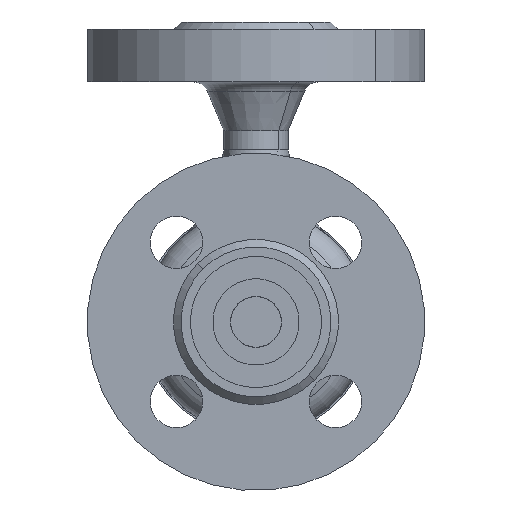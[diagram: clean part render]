
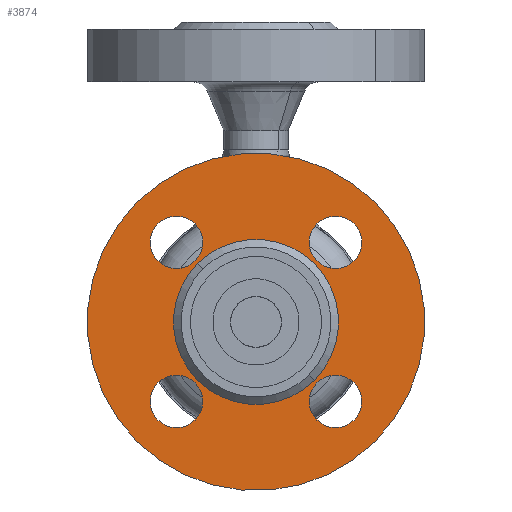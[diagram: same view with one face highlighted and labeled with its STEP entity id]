
A CAD part, front view. The second image highlights one B-rep face of the part: STEP entity #3874.
In plain terms, the highlighted planar face has unit normal (0, -1, 0).
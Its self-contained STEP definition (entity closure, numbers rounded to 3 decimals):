
#469 = VERTEX_POINT ( 'NONE', #3326 ) ;
#16939 = ORIENTED_EDGE ( 'NONE', *, *, #4074, .T. ) ;
#600 = EDGE_CURVE ( 'NONE', #469, #6923, #3419, .T. ) ;
#17247 = EDGE_CURVE ( 'NONE', #1572, #2832, #8337, .T. ) ;
#17549 = ORIENTED_EDGE ( 'NONE', *, *, #7517, .T. ) ;
#1572 = VERTEX_POINT ( 'NONE', #4493 ) ;
#1736 = ORIENTED_EDGE ( 'NONE', *, *, #14316, .T. ) ;
#2245 = EDGE_CURVE ( 'NONE', #6923, #469, #5028, .T. ) ;
#2832 = VERTEX_POINT ( 'NONE', #7404 ) ;
#2869 = VERTEX_POINT ( 'NONE', #7452 ) ;
#3087 = VERTEX_POINT ( 'NONE', #7704 ) ;
#3101 = CARTESIAN_POINT ( 'NONE',  ( 7., 2., 30. ) ) ;
#3301 = EDGE_CURVE ( 'NONE', #3087, #2869, #7951, .T. ) ;
#3326 = CARTESIAN_POINT ( 'NONE',  ( -23., 2., 0. ) ) ;
#3419 = CIRCLE ( 'NONE', #3420, 7. ) ;
#3420 = AXIS2_PLACEMENT_3D ( 'NONE', #3421, #3422, #3423 ) ;
#3421 = CARTESIAN_POINT ( 'NONE',  ( -30., 2., 0. ) ) ;
#3422 = DIRECTION ( 'NONE',  ( 0., 1., 0. ) ) ;
#3423 = DIRECTION ( 'NONE',  ( -1., 0., 0. ) ) ;
#3874 = ADVANCED_FACE ( 'NONE', ( #9098, #9099, #9100, #9101, #9102, #9103 ), #9104, .F. ) ;
#4074 = EDGE_CURVE ( 'NONE', #2832, #1572, #9378, .T. ) ;
#4307 = VERTEX_POINT ( 'NONE', #9642 ) ;
#4401 = ORIENTED_EDGE ( 'NONE', *, *, #4529, .T. ) ;
#4493 = CARTESIAN_POINT ( 'NONE',  ( -7., 2., -30. ) ) ;
#4529 = EDGE_CURVE ( 'NONE', #4307, #12866, #10000, .T. ) ;
#5028 = CIRCLE ( 'NONE', #5029, 7. ) ;
#5029 = AXIS2_PLACEMENT_3D ( 'NONE', #5030, #5031, #5032 ) ;
#5030 = CARTESIAN_POINT ( 'NONE',  ( -30., 2., 0. ) ) ;
#5031 = DIRECTION ( 'NONE',  ( 0., 1., 0. ) ) ;
#5032 = DIRECTION ( 'NONE',  ( -1., 0., 0. ) ) ;
#5400 = ORIENTED_EDGE ( 'NONE', *, *, #13811, .T. ) ;
#6923 = VERTEX_POINT ( 'NONE', #13526 ) ;
#7388 = EDGE_CURVE ( 'NONE', #2869, #3087, #15179, .T. ) ;
#7404 = CARTESIAN_POINT ( 'NONE',  ( 7., 2., -30. ) ) ;
#7452 = CARTESIAN_POINT ( 'NONE',  ( 45., 2., 0. ) ) ;
#7517 = EDGE_CURVE ( 'NONE', #9239, #9457, #15244, .T. ) ;
#7704 = CARTESIAN_POINT ( 'NONE',  ( -45., 2., 0. ) ) ;
#7951 = CIRCLE ( 'NONE', #7952, 45. ) ;
#7952 = AXIS2_PLACEMENT_3D ( 'NONE', #7954, #7955, #7956 ) ;
#7954 = CARTESIAN_POINT ( 'NONE',  ( 0., 2., 0. ) ) ;
#7955 = DIRECTION ( 'NONE',  ( 0., 1., 0. ) ) ;
#7956 = DIRECTION ( 'NONE',  ( -1., 0., 0. ) ) ;
#8202 = EDGE_LOOP ( 'NONE', ( #13662, #4401 ) ) ;
#8337 = CIRCLE ( 'NONE', #8338, 7. ) ;
#8338 = AXIS2_PLACEMENT_3D ( 'NONE', #8339, #8340, #8341 ) ;
#8339 = CARTESIAN_POINT ( 'NONE',  ( 0., 2., -30. ) ) ;
#8340 = DIRECTION ( 'NONE',  ( 0., 1., 0. ) ) ;
#8341 = DIRECTION ( 'NONE',  ( -1., 0., 0. ) ) ;
#8440 = ORIENTED_EDGE ( 'NONE', *, *, #14059, .T. ) ;
#8685 = CARTESIAN_POINT ( 'NONE',  ( 23., 2., 0. ) ) ;
#8731 = ORIENTED_EDGE ( 'NONE', *, *, #2245, .T. ) ;
#9098 = FACE_BOUND ( 'NONE', #12304, .T. ) ;
#9099 = FACE_BOUND ( 'NONE', #16021, .T. ) ;
#9100 = FACE_BOUND ( 'NONE', #14927, .T. ) ;
#9101 = FACE_BOUND ( 'NONE', #8202, .T. ) ;
#9102 = FACE_OUTER_BOUND ( 'NONE', #11468, .T. ) ;
#9103 = FACE_BOUND ( 'NONE', #12789, .T. ) ;
#9104 = PLANE ( 'NONE',  #9105 ) ;
#9105 = AXIS2_PLACEMENT_3D ( 'NONE', #9106, #9107, #9108 ) ;
#9106 = CARTESIAN_POINT ( 'NONE',  ( 22., 2., 0. ) ) ;
#9107 = DIRECTION ( 'NONE',  ( 0., 1., 0. ) ) ;
#9108 = DIRECTION ( 'NONE',  ( -1., 0., 0. ) ) ;
#9239 = VERTEX_POINT ( 'NONE', #10435 ) ;
#9378 = CIRCLE ( 'NONE', #9379, 7. ) ;
#9379 = AXIS2_PLACEMENT_3D ( 'NONE', #9380, #9381, #9382 ) ;
#9380 = CARTESIAN_POINT ( 'NONE',  ( 0., 2., -30. ) ) ;
#9381 = DIRECTION ( 'NONE',  ( 0., 1., 0. ) ) ;
#9382 = DIRECTION ( 'NONE',  ( -1., 0., 0. ) ) ;
#9457 = VERTEX_POINT ( 'NONE', #3101 ) ;
#9606 = CIRCLE ( 'NONE', #9607, 7. ) ;
#9607 = AXIS2_PLACEMENT_3D ( 'NONE', #9608, #9609, #9610 ) ;
#9608 = CARTESIAN_POINT ( 'NONE',  ( 30., 2., 0. ) ) ;
#9609 = DIRECTION ( 'NONE',  ( 0., 1., 0. ) ) ;
#9610 = DIRECTION ( 'NONE',  ( -1., 0., 0. ) ) ;
#9642 = CARTESIAN_POINT ( 'NONE',  ( 37., 2., 0. ) ) ;
#9643 = CARTESIAN_POINT ( 'NONE',  ( -22., 2., 0. ) ) ;
#10000 = CIRCLE ( 'NONE', #10001, 7. ) ;
#10001 = AXIS2_PLACEMENT_3D ( 'NONE', #10002, #10003, #10004 ) ;
#10002 = CARTESIAN_POINT ( 'NONE',  ( 30., 2., 0. ) ) ;
#10003 = DIRECTION ( 'NONE',  ( 0., 1., 0. ) ) ;
#10004 = DIRECTION ( 'NONE',  ( -1., 0., 0. ) ) ;
#10005 = CIRCLE ( 'NONE', #10006, 22. ) ;
#10006 = AXIS2_PLACEMENT_3D ( 'NONE', #10007, #10008, #10010 ) ;
#10007 = CARTESIAN_POINT ( 'NONE',  ( 0., 2., 0. ) ) ;
#10008 = DIRECTION ( 'NONE',  ( 0., 1., 0. ) ) ;
#10010 = DIRECTION ( 'NONE',  ( -1., 0., 0. ) ) ;
#10435 = CARTESIAN_POINT ( 'NONE',  ( -7., 2., 30. ) ) ;
#10552 = CIRCLE ( 'NONE', #10553, 7. ) ;
#10553 = AXIS2_PLACEMENT_3D ( 'NONE', #10554, #10555, #10556 ) ;
#10554 = CARTESIAN_POINT ( 'NONE',  ( 0., 2., 30. ) ) ;
#10555 = DIRECTION ( 'NONE',  ( 0., 1., 0. ) ) ;
#10556 = DIRECTION ( 'NONE',  ( -1., 0., 0. ) ) ;
#10758 = CIRCLE ( 'NONE', #10759, 22. ) ;
#10759 = AXIS2_PLACEMENT_3D ( 'NONE', #10760, #10761, #10762 ) ;
#10760 = CARTESIAN_POINT ( 'NONE',  ( 0., 2., 0. ) ) ;
#10761 = DIRECTION ( 'NONE',  ( 0., 1., 0. ) ) ;
#10762 = DIRECTION ( 'NONE',  ( -1., 0., 0. ) ) ;
#10961 = ORIENTED_EDGE ( 'NONE', *, *, #3301, .F. ) ;
#11468 = EDGE_LOOP ( 'NONE', ( #10961, #13025 ) ) ;
#11961 = ORIENTED_EDGE ( 'NONE', *, *, #17247, .T. ) ;
#12103 = CARTESIAN_POINT ( 'NONE',  ( 22., 2., 0. ) ) ;
#12304 = EDGE_LOOP ( 'NONE', ( #11961, #16939 ) ) ;
#12789 = EDGE_LOOP ( 'NONE', ( #5400, #1736 ) ) ;
#12866 = VERTEX_POINT ( 'NONE', #8685 ) ;
#13025 = ORIENTED_EDGE ( 'NONE', *, *, #7388, .F. ) ;
#13526 = CARTESIAN_POINT ( 'NONE',  ( -37., 2., 0. ) ) ;
#13534 = EDGE_CURVE ( 'NONE', #12866, #4307, #9606, .T. ) ;
#13590 = VERTEX_POINT ( 'NONE', #9643 ) ;
#13662 = ORIENTED_EDGE ( 'NONE', *, *, #13534, .T. ) ;
#13811 = EDGE_CURVE ( 'NONE', #13590, #14837, #10005, .T. ) ;
#14059 = EDGE_CURVE ( 'NONE', #9457, #9239, #10552, .T. ) ;
#14316 = EDGE_CURVE ( 'NONE', #14837, #13590, #10758, .T. ) ;
#14837 = VERTEX_POINT ( 'NONE', #12103 ) ;
#14927 = EDGE_LOOP ( 'NONE', ( #17549, #8440 ) ) ;
#15060 = ORIENTED_EDGE ( 'NONE', *, *, #600, .T. ) ;
#15179 = CIRCLE ( 'NONE', #15180, 45. ) ;
#15180 = AXIS2_PLACEMENT_3D ( 'NONE', #15181, #15182, #15183 ) ;
#15181 = CARTESIAN_POINT ( 'NONE',  ( 0., 2., 0. ) ) ;
#15182 = DIRECTION ( 'NONE',  ( 0., 1., 0. ) ) ;
#15183 = DIRECTION ( 'NONE',  ( -1., 0., 0. ) ) ;
#15244 = CIRCLE ( 'NONE', #15245, 7. ) ;
#15245 = AXIS2_PLACEMENT_3D ( 'NONE', #15246, #15247, #15248 ) ;
#15246 = CARTESIAN_POINT ( 'NONE',  ( 0., 2., 30. ) ) ;
#15247 = DIRECTION ( 'NONE',  ( 0., 1., 0. ) ) ;
#15248 = DIRECTION ( 'NONE',  ( -1., 0., 0. ) ) ;
#16021 = EDGE_LOOP ( 'NONE', ( #8731, #15060 ) ) ;
